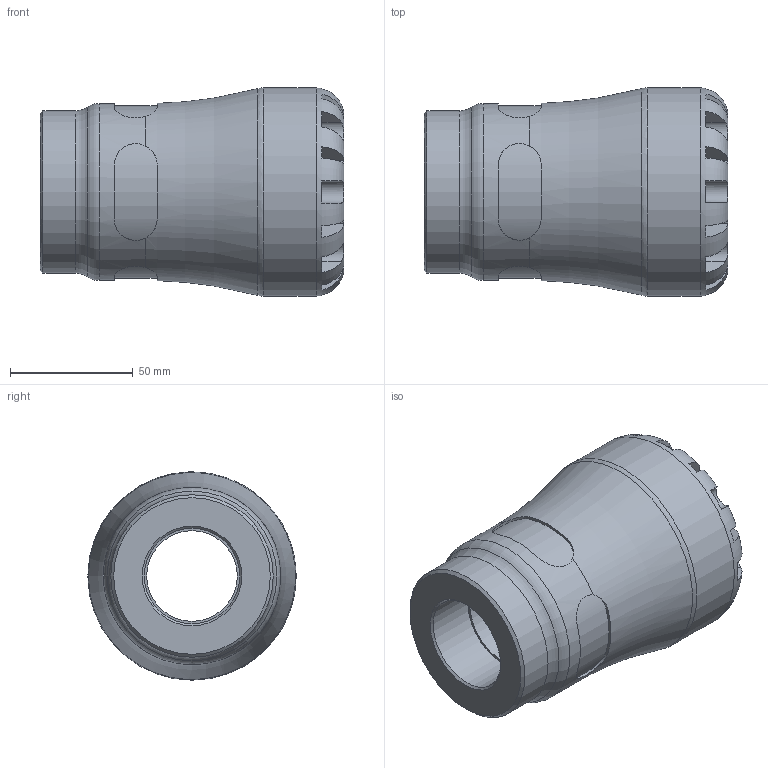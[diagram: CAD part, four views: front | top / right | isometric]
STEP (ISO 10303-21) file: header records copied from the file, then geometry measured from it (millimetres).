
FILE_DESCRIPTION(/* description */ ('PLASSON FEMALE INTEGRAL BRASS THREAD 50-1.1/4" SERIES 1'),/* implementation_level */ '2;1');
FILE_NAME(/* name */ 'C:\Dropbox\KIMPROJECTS-Inventor\99-16-3568-Processing\1073\107300050013_197300050013.ipt.stp',/* time_stamp */ '2017-01-22T11:35:44+02:00',/* author */ ('KIM'),/* organization */ (''),/* preprocessor_version */ 'ST-DEVELOPER v15.6',/* originating_system */ 'Autodesk Inventor 2015',/* authorisation */ '');
FILE_SCHEMA (('AUTOMOTIVE_DESIGN { 1 0 10303 214 3 1 1 }'));
Length unit declared in the file: millimetre
Products named in the file (1): 107300050013_197300050013
Bounding box: 124 x 85 x 85 mm (x, y, z)
Volume: 346924.9 mm3; surface area: 56172.8 mm2
Topology: 1 solids, 1 shells, 104 faces, 265 edges, 166 vertices
Faces by surface type: plane 61, cylinder 35, torus 5, cone 3
Full cylindrical faces by diameter (mm): 37.004 x1, 38.952 x1, 41.667 x1, 50 x1, 66.3 x1, 72.25 x1, 85 x1
Entity records: 3868 total; most frequent: CARTESIAN_POINT 1481, ORIENTED_EDGE 492, DIRECTION 478, EDGE_CURVE 246, AXIS2_PLACEMENT_3D 199, VERTEX_POINT 162, EDGE_LOOP 124, FACE_OUTER_BOUND 104
